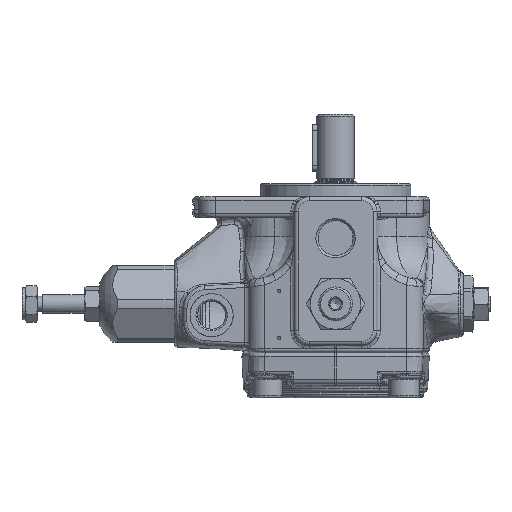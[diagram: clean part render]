
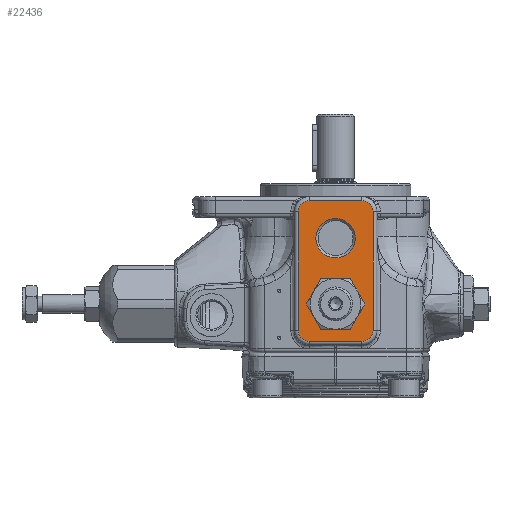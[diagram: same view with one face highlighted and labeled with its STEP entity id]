
A CAD part, left-side view. The second image highlights one B-rep face of the part: STEP entity #22436.
In plain terms, the highlighted planar face has unit normal (-1, 0, 0).
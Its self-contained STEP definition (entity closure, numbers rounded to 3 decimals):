
#2217=LINE('',#37850,#3188);
#2218=LINE('',#37854,#3189);
#2219=LINE('',#37858,#3190);
#2220=LINE('',#37861,#3191);
#3188=VECTOR('',#29027,10.);
#3189=VECTOR('',#29030,10.);
#3190=VECTOR('',#29033,10.);
#3191=VECTOR('',#29036,10.);
#3974=FACE_BOUND('',#6067,.T.);
#3975=FACE_BOUND('',#6068,.T.);
#4622=FACE_OUTER_BOUND('',#6066,.T.);
#6066=EDGE_LOOP('',(#16466,#16467,#16468,#16469,#16470,#16471,#16472,#16473));
#6067=EDGE_LOOP('',(#16474,#16475,#16476,#16477,#16478,#16479));
#6068=EDGE_LOOP('',(#16480,#16481));
#6890=CIRCLE('',#23259,13.5);
#6891=CIRCLE('',#23261,13.5);
#6892=CIRCLE('',#23263,13.5);
#6893=CIRCLE('',#23265,13.5);
#6894=CIRCLE('',#23267,13.5);
#6895=CIRCLE('',#23269,13.5);
#7535=CIRCLE('',#24495,10.5);
#7536=CIRCLE('',#24496,10.5);
#7566=CIRCLE('',#24551,6.);
#7567=CIRCLE('',#24552,6.);
#7568=CIRCLE('',#24553,6.);
#7569=CIRCLE('',#24554,6.);
#8323=VERTEX_POINT('',#32176);
#8324=VERTEX_POINT('',#32180);
#8325=VERTEX_POINT('',#32186);
#8328=VERTEX_POINT('',#32197);
#8330=VERTEX_POINT('',#32207);
#8331=VERTEX_POINT('',#32216);
#9215=VERTEX_POINT('',#37595);
#9216=VERTEX_POINT('',#37596);
#9255=VERTEX_POINT('',#37846);
#9256=VERTEX_POINT('',#37847);
#9257=VERTEX_POINT('',#37849);
#9258=VERTEX_POINT('',#37851);
#9259=VERTEX_POINT('',#37853);
#9260=VERTEX_POINT('',#37855);
#9261=VERTEX_POINT('',#37857);
#9262=VERTEX_POINT('',#37859);
#10266=EDGE_CURVE('',#8323,#8324,#6890,.T.);
#10268=EDGE_CURVE('',#8324,#8325,#6891,.T.);
#10272=EDGE_CURVE('',#8328,#8323,#6892,.T.);
#10275=EDGE_CURVE('',#8330,#8328,#6893,.T.);
#10277=EDGE_CURVE('',#8325,#8331,#6894,.T.);
#10280=EDGE_CURVE('',#8331,#8330,#6895,.T.);
#11711=EDGE_CURVE('',#9215,#9216,#7535,.T.);
#11712=EDGE_CURVE('',#9216,#9215,#7536,.T.);
#11773=EDGE_CURVE('',#9255,#9256,#7566,.T.);
#11774=EDGE_CURVE('',#9257,#9255,#2217,.T.);
#11775=EDGE_CURVE('',#9258,#9257,#7567,.T.);
#11776=EDGE_CURVE('',#9259,#9258,#2218,.T.);
#11777=EDGE_CURVE('',#9260,#9259,#7568,.T.);
#11778=EDGE_CURVE('',#9261,#9260,#2219,.T.);
#11779=EDGE_CURVE('',#9262,#9261,#7569,.T.);
#11780=EDGE_CURVE('',#9256,#9262,#2220,.T.);
#16466=ORIENTED_EDGE('',*,*,#11773,.F.);
#16467=ORIENTED_EDGE('',*,*,#11774,.F.);
#16468=ORIENTED_EDGE('',*,*,#11775,.F.);
#16469=ORIENTED_EDGE('',*,*,#11776,.F.);
#16470=ORIENTED_EDGE('',*,*,#11777,.F.);
#16471=ORIENTED_EDGE('',*,*,#11778,.F.);
#16472=ORIENTED_EDGE('',*,*,#11779,.F.);
#16473=ORIENTED_EDGE('',*,*,#11780,.F.);
#16474=ORIENTED_EDGE('',*,*,#10266,.T.);
#16475=ORIENTED_EDGE('',*,*,#10268,.T.);
#16476=ORIENTED_EDGE('',*,*,#10277,.T.);
#16477=ORIENTED_EDGE('',*,*,#10280,.T.);
#16478=ORIENTED_EDGE('',*,*,#10275,.T.);
#16479=ORIENTED_EDGE('',*,*,#10272,.T.);
#16480=ORIENTED_EDGE('',*,*,#11711,.T.);
#16481=ORIENTED_EDGE('',*,*,#11712,.T.);
#20264=PLANE('',#24550);
#22436=ADVANCED_FACE('',(#4622,#3974,#3975),#20264,.F.);
#23259=AXIS2_PLACEMENT_3D('',#32184,#25907,#25908);
#23261=AXIS2_PLACEMENT_3D('',#32191,#25911,#25912);
#23263=AXIS2_PLACEMENT_3D('',#32204,#25915,#25916);
#23265=AXIS2_PLACEMENT_3D('',#32214,#25919,#25920);
#23267=AXIS2_PLACEMENT_3D('',#32221,#25923,#25924);
#23269=AXIS2_PLACEMENT_3D('',#32230,#25927,#25928);
#24495=AXIS2_PLACEMENT_3D('',#37597,#28898,#28899);
#24496=AXIS2_PLACEMENT_3D('',#37598,#28900,#28901);
#24550=AXIS2_PLACEMENT_3D('',#37845,#29023,#29024);
#24551=AXIS2_PLACEMENT_3D('',#37848,#29025,#29026);
#24552=AXIS2_PLACEMENT_3D('',#37852,#29028,#29029);
#24553=AXIS2_PLACEMENT_3D('',#37856,#29031,#29032);
#24554=AXIS2_PLACEMENT_3D('',#37860,#29034,#29035);
#25907=DIRECTION('center_axis',(1.,0.,0.));
#25908=DIRECTION('ref_axis',(0.,1.,0.));
#25911=DIRECTION('center_axis',(1.,0.,0.));
#25912=DIRECTION('ref_axis',(0.,1.,0.));
#25915=DIRECTION('center_axis',(1.,0.,0.));
#25916=DIRECTION('ref_axis',(0.,1.,0.));
#25919=DIRECTION('center_axis',(1.,0.,0.));
#25920=DIRECTION('ref_axis',(0.,1.,0.));
#25923=DIRECTION('center_axis',(1.,0.,0.));
#25924=DIRECTION('ref_axis',(0.,1.,0.));
#25927=DIRECTION('center_axis',(1.,0.,0.));
#25928=DIRECTION('ref_axis',(0.,1.,0.));
#28898=DIRECTION('center_axis',(1.,0.,0.));
#28899=DIRECTION('ref_axis',(0.,-1.,0.));
#28900=DIRECTION('center_axis',(1.,0.,0.));
#28901=DIRECTION('ref_axis',(0.,-1.,0.));
#29023=DIRECTION('center_axis',(1.,0.,0.));
#29024=DIRECTION('ref_axis',(0.,0.,-1.));
#29025=DIRECTION('center_axis',(1.,0.,0.));
#29026=DIRECTION('ref_axis',(0.,-0.707,0.707));
#29027=DIRECTION('',(0.,-1.,0.));
#29028=DIRECTION('center_axis',(1.,0.,0.));
#29029=DIRECTION('ref_axis',(0.,0.707,0.707));
#29030=DIRECTION('',(0.,0.,1.));
#29031=DIRECTION('center_axis',(1.,0.,0.));
#29032=DIRECTION('ref_axis',(0.,0.707,-0.707));
#29033=DIRECTION('',(0.,1.,0.));
#29034=DIRECTION('center_axis',(1.,0.,0.));
#29035=DIRECTION('ref_axis',(0.,-0.707,-0.707));
#29036=DIRECTION('',(0.,0.,-1.));
#32176=CARTESIAN_POINT('',(-53.273,-30.4,-12.25));
#32180=CARTESIAN_POINT('',(-53.273,-30.4,-25.75));
#32184=CARTESIAN_POINT('Origin',(-53.273,-18.709,-19.));
#32186=CARTESIAN_POINT('',(-53.273,-18.709,-32.5));
#32191=CARTESIAN_POINT('Origin',(-53.273,-18.709,-19.));
#32197=CARTESIAN_POINT('',(-53.273,-18.709,-5.5));
#32204=CARTESIAN_POINT('Origin',(-53.273,-18.709,-19.));
#32207=CARTESIAN_POINT('',(-53.273,-7.017,-12.25));
#32214=CARTESIAN_POINT('Origin',(-53.273,-18.709,-19.));
#32216=CARTESIAN_POINT('',(-53.273,-7.017,-25.75));
#32221=CARTESIAN_POINT('Origin',(-53.273,-18.709,-19.));
#32230=CARTESIAN_POINT('Origin',(-53.273,-18.709,-19.));
#37595=CARTESIAN_POINT('',(-53.273,-29.209,16.));
#37596=CARTESIAN_POINT('',(-53.273,-8.209,16.));
#37597=CARTESIAN_POINT('Origin',(-53.273,-18.709,16.));
#37598=CARTESIAN_POINT('Origin',(-53.273,-18.709,16.));
#37845=CARTESIAN_POINT('Origin',(-53.273,-16.951,1.221));
#37846=CARTESIAN_POINT('',(-53.273,-32.709,36.));
#37847=CARTESIAN_POINT('',(-53.273,-38.709,30.));
#37848=CARTESIAN_POINT('Origin',(-53.273,-32.709,30.));
#37849=CARTESIAN_POINT('',(-53.273,-4.709,36.));
#37850=CARTESIAN_POINT('',(-53.273,-12.516,36.));
#37851=CARTESIAN_POINT('',(-53.273,1.291,30.));
#37852=CARTESIAN_POINT('Origin',(-53.273,-4.709,30.));
#37853=CARTESIAN_POINT('',(-53.273,1.291,-33.));
#37854=CARTESIAN_POINT('',(-53.273,1.291,13.75));
#37855=CARTESIAN_POINT('',(-53.273,-4.709,-39.));
#37856=CARTESIAN_POINT('Origin',(-53.273,-4.709,-33.));
#37857=CARTESIAN_POINT('',(-53.273,-32.709,-39.));
#37858=CARTESIAN_POINT('',(-53.273,-11.709,-39.));
#37859=CARTESIAN_POINT('',(-53.273,-38.709,-33.));
#37860=CARTESIAN_POINT('Origin',(-53.273,-32.709,-33.));
#37861=CARTESIAN_POINT('',(-53.273,-38.709,13.75));
